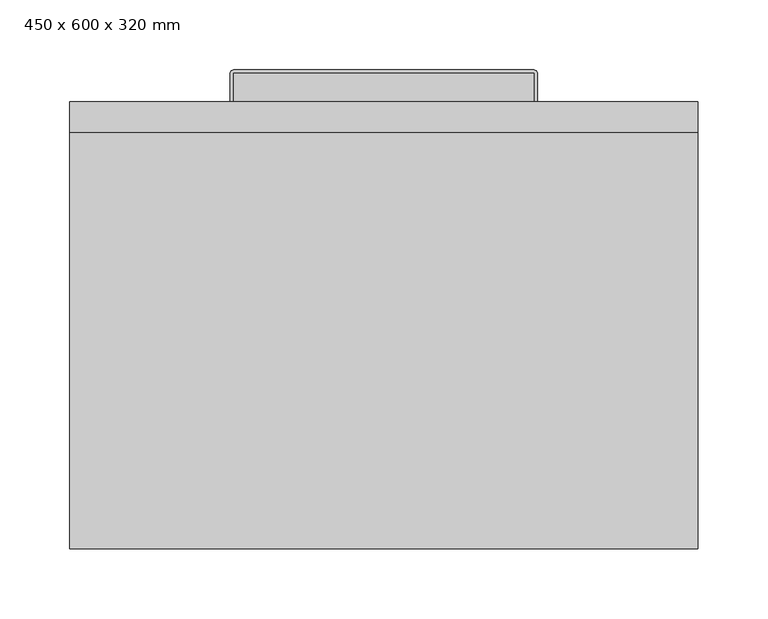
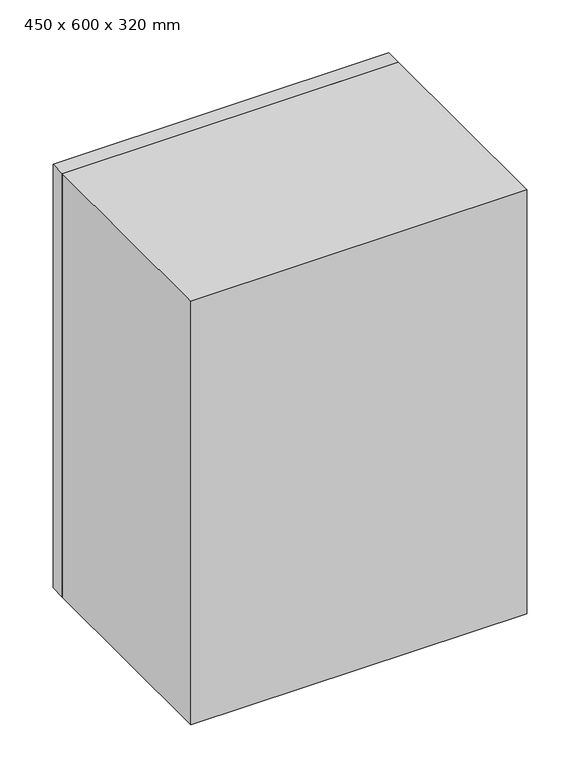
"""IFC4 building model written with IfcOpenShell, lengths in millimetres: furniture geometry, Armario superior - Puerta simple : 450 x 600 x 320 mm."""

from ifc_helpers import new_model, si_unit, point, frame, frame_2d, origin, place, context, project, spatial, polyline, circle_curve, trimmed, segment, composite_curve, outline, extrude, faceted_brep, source, transform, mapped, element, save


def furniture_450_x_600_x_320_mm_602578f4(model_context):
    return source(origin(), model_context, "Body", "SolidModel", [
        extrude(outline(composite_curve([segment(polyline([(67.0, 410.0), (67.0, 430.5)]), True, "CONTINUOUS"), segment(trimmed(circle_curve(frame_2d((67.5, 430.5)), 0.5), [point((67.0, 430.5))], [point((67.5, 431.0))], False, "CARTESIAN"), True, "CONTINUOUS"), segment(polyline([(67.5, 431.0), (282.5, 431.0)]), True, "CONTINUOUS"), segment(trimmed(circle_curve(frame_2d((282.5, 430.5)), 0.5), [point((282.5, 431.0))], [point((283.0, 430.5))], False, "CARTESIAN"), True, "CONTINUOUS"), segment(polyline([(283.0, 430.5), (283.0, 410.0), (67.0, 410.0)]), True, "CONTINUOUS")], self_intersect=False)), frame((0.0, 0.0, 1449.765389), z_axis=(0.0, 0.0, 1.0), x_axis=(1.0, 0.0, 0.0)), (0.0, 0.0, 1.0), 6.4890959),
        extrude(outline(composite_curve([segment(polyline([(65.0, 410.0), (65.0, 430.5)]), True, "CONTINUOUS"), segment(trimmed(circle_curve(frame_2d((67.5, 430.5)), 2.5), [point((65.0, 430.5))], [point((67.5, 433.0))], False, "CARTESIAN"), True, "CONTINUOUS"), segment(polyline([(67.5, 433.0), (282.5, 433.0)]), True, "CONTINUOUS"), segment(trimmed(circle_curve(frame_2d((282.5, 430.5)), 2.5), [point((282.5, 433.0))], [point((285.0, 430.5))], False, "CARTESIAN"), True, "CONTINUOUS"), segment(polyline([(285.0, 430.5), (285.0, 410.0), (283.0, 410.0), (283.0, 430.5)]), True, "CONTINUOUS"), segment(trimmed(circle_curve(frame_2d((282.5, 430.5)), 0.5), [point((283.0, 430.5))], [point((282.5, 431.0))], True, "CARTESIAN"), True, "CONTINUOUS"), segment(polyline([(282.5, 431.0), (67.5, 431.0)]), True, "CONTINUOUS"), segment(trimmed(circle_curve(frame_2d((67.5, 430.5)), 0.5), [point((67.5, 431.0))], [point((67.0, 430.5))], True, "CARTESIAN"), True, "CONTINUOUS"), segment(polyline([(67.0, 430.5), (67.0, 410.0), (65.0, 410.0)]), True, "CONTINUOUS")], self_intersect=False)), frame((0.0, 0.0, 1447.0), z_axis=(0.0, 0.0, 1.0), x_axis=(1.0, 0.0, 0.0)), (0.0, 0.0, 1.0), 12.0),
        faceted_brep([(378.0, 388.0, 1422.0), (-28.0, 388.0, 1422.0), (-28.0, 112.0, 1422.0), (378.0, 112.0, 1422.0), (400.0, 388.0, 1400.0), (400.0, 90.0, 1400.0), (-50.0, 90.0, 1400.0), (-50.0, 388.0, 1400.0), (-50.0, 388.0, 2000.0), (400.0, 388.0, 2000.0), (378.0, 388.0, 1978.0), (-28.0, 388.0, 1978.0), (-50.0, 90.0, 2000.0), (400.0, 90.0, 2000.0), (378.0, 112.0, 1978.0), (-28.0, 112.0, 1978.0)], [[[0, 1, 2, 3]], [[4, 5, 6, 7]], [[8, 9, 4, 7], [0, 10, 11, 1]], [[8, 7, 6, 12]], [[12, 6, 5, 13]], [[13, 5, 4, 9]], [[10, 0, 3, 14]], [[14, 3, 2, 15]], [[1, 11, 15, 2]], [[9, 8, 12, 13]], [[11, 10, 14, 15]]]),
        extrude(outline(polyline([(-50.0, 410.0), (400.0, 410.0), (400.0, 388.0), (-50.0, 388.0), (-50.0, 410.0)])), frame((0.0, 0.0, 1400.0), z_axis=(0.0, 0.0, 1.0), x_axis=(1.0, 0.0, 0.0)), (0.0, 0.0, 1.0), 600.0),
    ])


if __name__ == "__main__":
    model = new_model("IFC4")
    model_context = context("Model", 3, world=origin())
    ifc_project = project(units=[si_unit("LENGTHUNIT", "METRE", prefix="MILLI")], contexts=[model_context])
    site = spatial("IfcSite", under=ifc_project)
    building = spatial("IfcBuilding", under=site)
    placement = place(None, origin())
    furniture_450_x_600_x_320_mm_shape = furniture_450_x_600_x_320_mm_602578f4(model_context)
    element("IfcFurniture", 1, ObjectType="Armario superior - Puerta simple : 450 x 600 x 320 mm", at=placement, inside=building, context=model_context, shape_type="MappedRepresentation", body=[
        mapped(furniture_450_x_600_x_320_mm_shape, transform((0.0, 0.0, 0.0), x_axis=(1.0, 0.0, 0.0), y_axis=(0.0, 1.0, 0.0), z_axis=(0.0, 0.0, 1.0))),
    ])
    save(model, "model.ifc")
